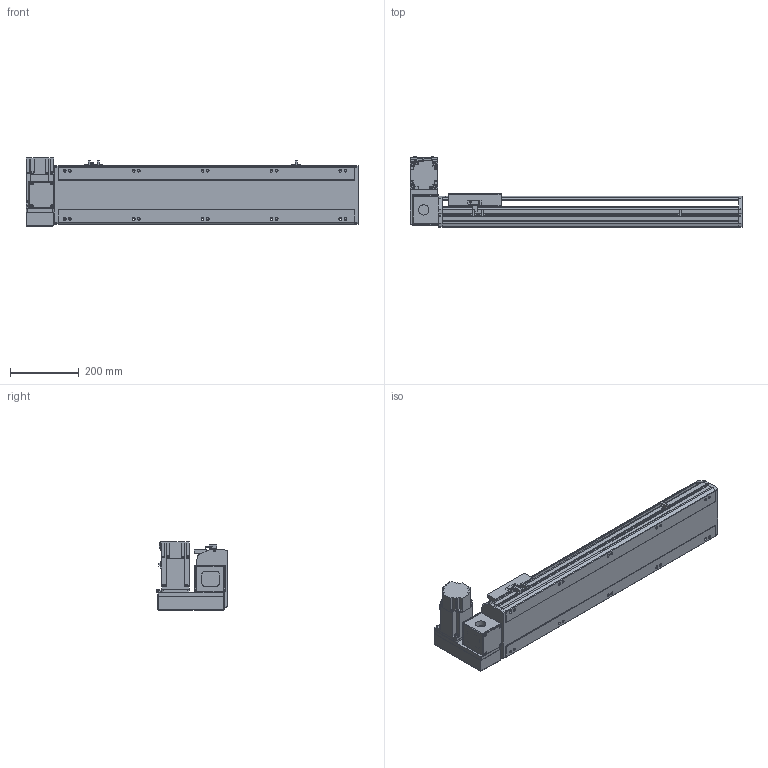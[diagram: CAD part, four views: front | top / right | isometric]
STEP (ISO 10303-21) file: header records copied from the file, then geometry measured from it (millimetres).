
FILE_DESCRIPTION( ( 'STEP AP214' ), '1' );
FILE_NAME( 'x:/temp/worker_4/temp/exporttempdir_2248_387_TpDdm/format_0/PBS170-P40-S600-LU-T75-C1-N(0).stp', '2022-06-07T08:14:27', ( 'License CC BY-ND 4.0' ), ( 'CADENAS' ), ' ', 'PARTsolutions', ' ' );
FILE_SCHEMA( ( 'AUTOMOTIVE_DESIGN { 1 0 10303 214 1 1 1 1 }' ) );
Length unit declared in the file: millimetre
Products named in the file (7): PBS170-P40-S600-LU-T75-C1-N(0); _PBS170-S600()_body; _PBS170T-LU_motors; _T75-p1; _PBS170_sliser; _PBS170_plant; _PBS170_sensor
Assembly tree (8 placements, depth 2):
  PBS170-P40-S600-LU-T75-C1-N(0)
    _PBS170-S600()_body
    _PBS170T-LU_motors
    _T75-p1
    _PBS170_sliser
    _PBS170_plant
    _PBS170_sensor  x3
Bounding box: 963 x 206 x 197.3 mm (x, y, z)
Volume: 8142545.9 mm3; surface area: 1095428.3 mm2
Topology: 8 solids, 8 shells, 1034 faces, 2755 edges, 1796 vertices
Faces by surface type: plane 669, cylinder 315, cone 40, sphere 8, torus 2
Full cylindrical faces by diameter (mm): 3.242 x4, 4 x2, 4.4 x4, 4.5 x6, 4.917 x4, 6 x9, 6.647 x18, 7 x2, 7.5 x4, 8 x8, 8.5 x10, 10 x4, 10.5 x10, 11 x2, 30 x2, 40 x1, 70 x1
Entity records: 37814 total; most frequent: CARTESIAN_POINT 5717, DIRECTION 5090, ORIENTED_EDGE 4848, EDGE_CURVE 2424, AXIS2_PLACEMENT_3D 1747, VERTEX_POINT 1658, LINE 1596, VECTOR 1596
